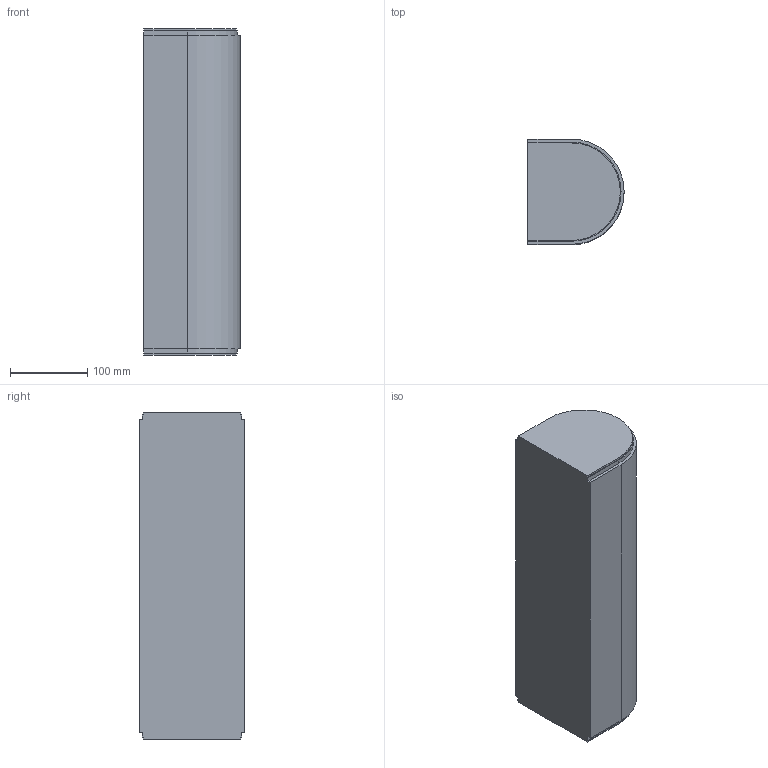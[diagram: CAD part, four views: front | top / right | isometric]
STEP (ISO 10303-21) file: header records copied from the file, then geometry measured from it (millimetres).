
FILE_DESCRIPTION (( 'STEP AP214' ), '1' );
FILE_NAME ('FS-MTC2-150-INOX Aandrijving & omloop.420 omloop.STEP', '2017-02-08T12:38:31', ( '' ), ( '' ), 'SwSTEP 2.0', 'SolidWorks 2016', '' );
FILE_SCHEMA (( 'AUTOMOTIVE_DESIGN' ));
Length unit declared in the file: millimetre
Products named in the file (1): FS-MTC2-150-INOX Aandrijving & omloop.420 omloop
Bounding box: 125 x 136.5 x 423 mm (x, y, z)
Volume: 6348826.4 mm3; surface area: 226206.4 mm2
Topology: 1 solids, 1 shells, 22 faces, 60 edges, 40 vertices
Faces by surface type: plane 17, cylinder 5
Entity records: 728 total; most frequent: CARTESIAN_POINT 123, ORIENTED_EDGE 120, DIRECTION 116, EDGE_CURVE 60, VECTOR 50, LINE 50, VERTEX_POINT 40, AXIS2_PLACEMENT_3D 33
